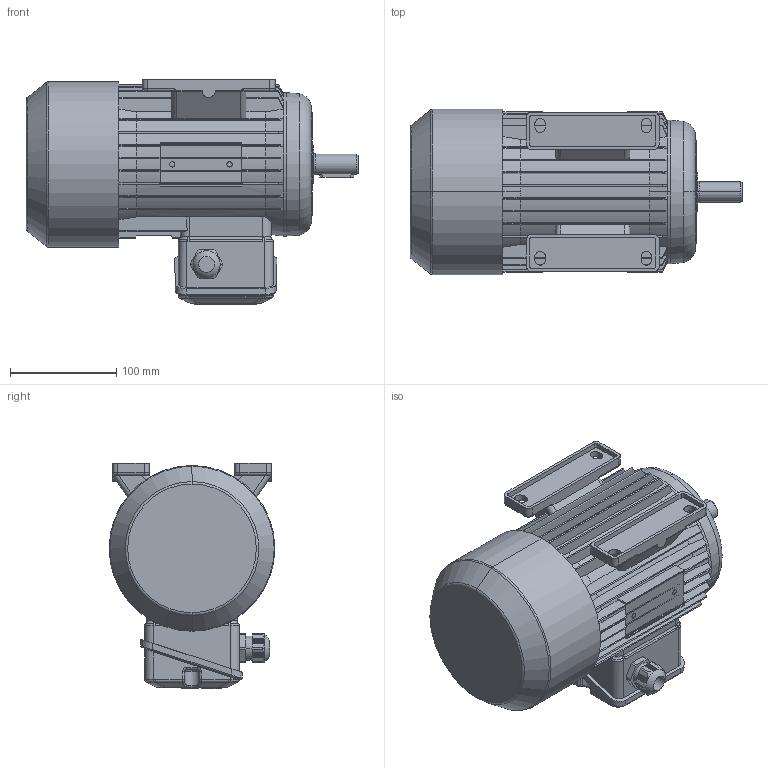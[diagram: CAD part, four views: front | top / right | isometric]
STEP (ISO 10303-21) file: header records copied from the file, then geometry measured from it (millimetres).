
FILE_DESCRIPTION (( 'STEP AP214' ), '1' );
FILE_NAME ('MAP80M4B IM1041.STEP', '2020-12-18T10:18:38', ( '' ), ( '' ), 'SwSTEP 2.0', 'SolidWorks 2018', '' );
FILE_SCHEMA (( 'AUTOMOTIVE_DESIGN' ));
Length unit declared in the file: millimetre
Products named in the file (1): MAP80M4B IM1041
Bounding box: 312.5 x 156 x 212 mm (x, y, z)
Volume: 4829096.9 mm3; surface area: 302747 mm2
Topology: 2 solids, 8 shells, 1217 faces, 3207 edges, 2036 vertices
Faces by surface type: plane 573, cylinder 308, bspline 180, cone 81, torus 73, sphere 2
Entity records: 48887 total; most frequent: CARTESIAN_POINT 20657, ORIENTED_EDGE 6398, DIRECTION 5218, EDGE_CURVE 3199, VERTEX_POINT 2036, AXIS2_PLACEMENT_3D 1775, VECTOR 1668, LINE 1668
